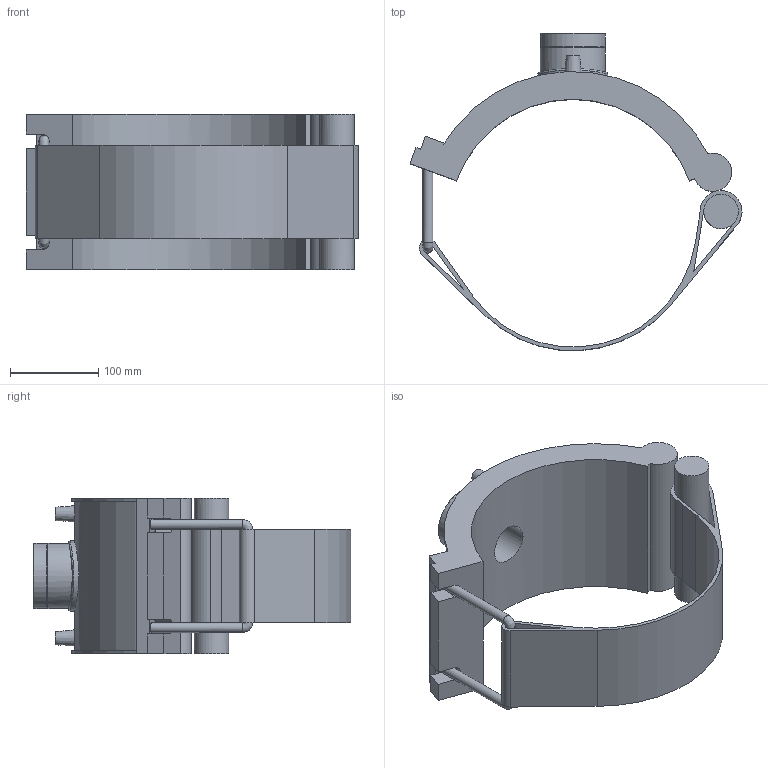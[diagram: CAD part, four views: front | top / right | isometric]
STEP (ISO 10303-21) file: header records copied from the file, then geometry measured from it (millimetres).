
FILE_DESCRIPTION(/* description */ ('PLASSON TRANSITION SADDLE 10''''DIPS x 2"NPT'),/* implementation_level */ '2;1');
FILE_NAME(/* name */ 'C:\Dropbox\KIMPROJECTS-Inventor 2019\99-16-3568-Processing Inch\ASTM ElectroFusion 2021\5938D\5938D00310055.ipt.stp',/* time_stamp */ '2021-08-30T09:52:19+03:00',/* author */ ('KIM'),/* organization */ (''),/* preprocessor_version */ 'ST-DEVELOPER v17.2',/* originating_system */ 'Autodesk Inventor 2019',/* authorisation */ '');
FILE_SCHEMA (('AUTOMOTIVE_DESIGN { 1 0 10303 214 3 1 1 }'));
Length unit declared in the file: inch
Products named in the file (1): 5938D00310055
Bounding box: 376.03 x 359.4 x 176.02 mm (x, y, z)
Volume: 2843412.8 mm3; surface area: 391230.3 mm2
Topology: 1 solids, 1 shells, 78 faces, 196 edges, 128 vertices
Faces by surface type: plane 42, cylinder 28, cone 5, torus 2, bspline 1
Full cylindrical faces by diameter (mm): 4 x2, 10 x2, 11.224 x2, 39.068 x1, 45.325 x1, 56.656 x1, 72.653 x1, 73.653 x2, 79.318 x1
Entity records: 2799 total; most frequent: CARTESIAN_POINT 808, DIRECTION 414, ORIENTED_EDGE 394, EDGE_CURVE 197, AXIS2_PLACEMENT_3D 150, VERTEX_POINT 128, LINE 114, VECTOR 114
